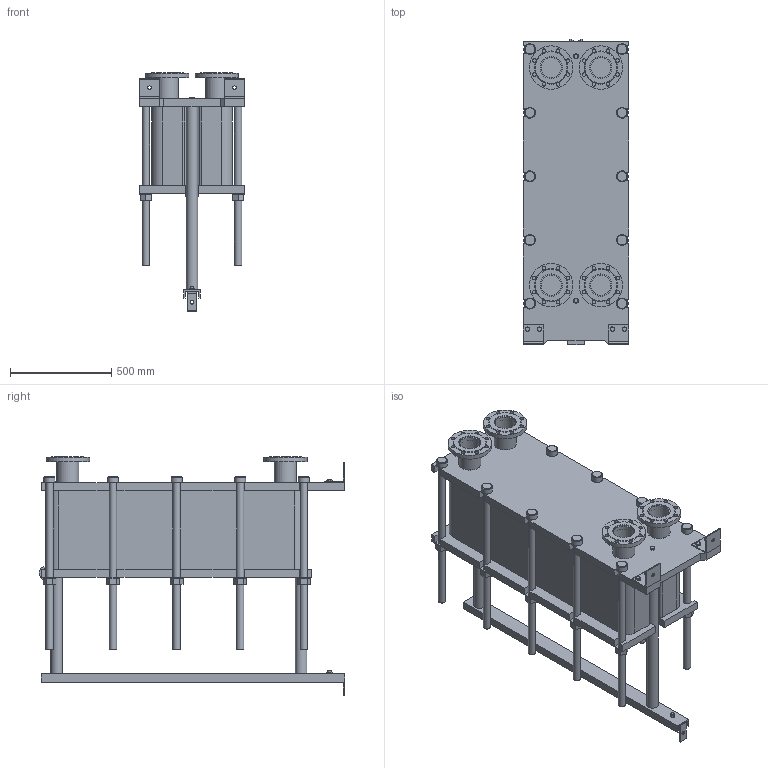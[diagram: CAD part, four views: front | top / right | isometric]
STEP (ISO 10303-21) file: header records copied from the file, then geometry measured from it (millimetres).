
FILE_DESCRIPTION(/* description */ (''),/* implementation_level */ '2;1');
FILE_NAME(/* name */ 'C:\Users\zhuro\Desktop\ENCO\TO\ЭН-04\ЭН-0,5-04-112-1.stp',/* time_stamp */ '2022-06-06T10:55:17+03:00',/* author */ ('zhuro'),/* organization */ (''),/* preprocessor_version */ 'ST-DEVELOPER v18.1',/* originating_system */ 'Autodesk Inventor 2022',/* authorisation */ '');
FILE_SCHEMA (('AUTOMOTIVE_DESIGN { 1 0 10303 214 3 1 1 }'));
Length unit declared in the file: millimetre
Products named in the file (1): ЭН-0,5-04-112-1
Bounding box: 520 x 1510 x 1181 mm (x, y, z)
Volume: 264957572.7 mm3; surface area: 8619143.1 mm2
Topology: 45 solids, 45 shells, 668 faces, 1611 edges, 1048 vertices
Faces by surface type: plane 457, cylinder 166, cone 39, torus 6
Full cylindrical faces by diameter (mm): 8 x4, 10 x2, 16 x8, 18 x35, 36 x25, 40 x2, 42 x1, 45 x4, 54 x10, 57 x2, 60 x10, 68 x2, 100 x4, 110 x8, 215 x4
Entity records: 23607 total; most frequent: CARTESIAN_POINT 7348, DIRECTION 3371, ORIENTED_EDGE 3142, EDGE_CURVE 1571, AXIS2_PLACEMENT_3D 1199, VERTEX_POINT 1044, LINE 973, VECTOR 973
